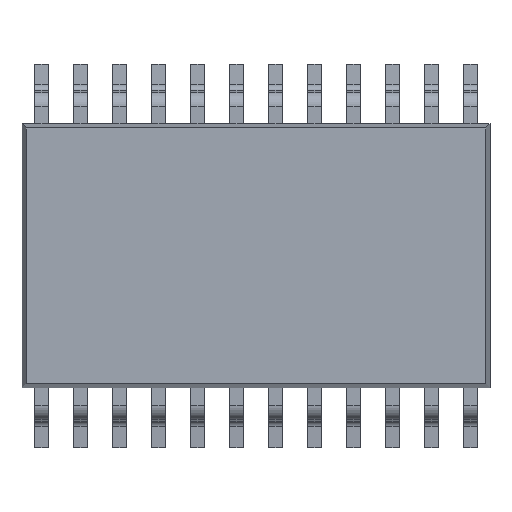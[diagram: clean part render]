
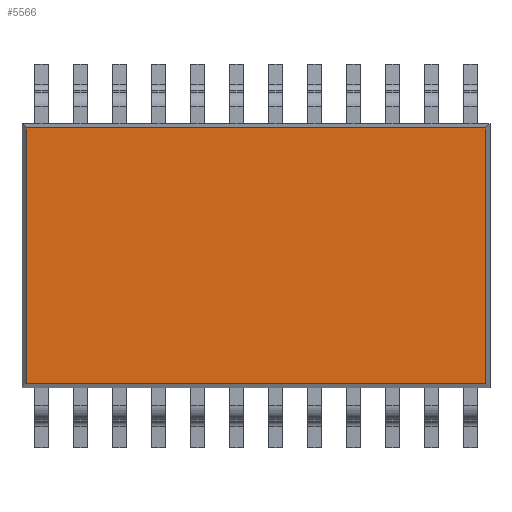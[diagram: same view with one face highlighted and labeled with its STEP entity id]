
A CAD part, top view. The second image highlights one B-rep face of the part: STEP entity #5566.
In plain terms, the highlighted planar face has unit normal (0, 0, 1).
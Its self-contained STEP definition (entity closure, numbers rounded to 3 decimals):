
#80 = DIRECTION ( 'NONE',  ( 0., 1., 0. ) ) ;
#121 = LINE ( 'NONE', #6752, #6411 ) ;
#325 = DIRECTION ( 'NONE',  ( 1., 0., 0. ) ) ;
#873 = DIRECTION ( 'NONE',  ( 0., 0., -1. ) ) ;
#892 = CARTESIAN_POINT ( 'NONE',  ( 3.832, 2.132, 0.387 ) ) ;
#1073 = ORIENTED_EDGE ( 'NONE', *, *, #7693, .T. ) ;
#1299 = VERTEX_POINT ( 'NONE', #3984 ) ;
#1426 = ORIENTED_EDGE ( 'NONE', *, *, #7400, .T. ) ;
#1429 = ORIENTED_EDGE ( 'NONE', *, *, #9684, .T. ) ;
#2398 = DIRECTION ( 'NONE',  ( 0., -1., 0. ) ) ;
#2445 = LINE ( 'NONE', #7421, #4788 ) ;
#2468 = DIRECTION ( 'NONE',  ( -1., 0., 0. ) ) ;
#2661 = CARTESIAN_POINT ( 'NONE',  ( 0., 0., 0.387 ) ) ;
#3385 = PLANE ( 'NONE',  #5066 ) ;
#3984 = CARTESIAN_POINT ( 'NONE',  ( -3.832, 2.132, 0.387 ) ) ;
#4788 = VECTOR ( 'NONE', #2398, 1000. ) ;
#4885 = CARTESIAN_POINT ( 'NONE',  ( 0., 2.132, 0.387 ) ) ;
#5066 = AXIS2_PLACEMENT_3D ( 'NONE', #2661, #873, #7652 ) ;
#5355 = EDGE_CURVE ( 'NONE', #1299, #6456, #2445, .T. ) ;
#5457 = VERTEX_POINT ( 'NONE', #892 ) ;
#5566 = ADVANCED_FACE ( 'NONE', ( #9491 ), #3385, .F. ) ;
#5935 = ORIENTED_EDGE ( 'NONE', *, *, #5355, .T. ) ;
#6411 = VECTOR ( 'NONE', #80, 1000. ) ;
#6456 = VERTEX_POINT ( 'NONE', #6739 ) ;
#6579 = VECTOR ( 'NONE', #2468, 1000. ) ;
#6739 = CARTESIAN_POINT ( 'NONE',  ( -3.832, -2.132, 0.387 ) ) ;
#6749 = CARTESIAN_POINT ( 'NONE',  ( 3.832, -2.132, 0.387 ) ) ;
#6752 = CARTESIAN_POINT ( 'NONE',  ( 3.832, 0., 0.387 ) ) ;
#6991 = CARTESIAN_POINT ( 'NONE',  ( 0., -2.132, 0.387 ) ) ;
#7400 = EDGE_CURVE ( 'NONE', #6456, #8366, #10358, .T. ) ;
#7421 = CARTESIAN_POINT ( 'NONE',  ( -3.832, 0., 0.387 ) ) ;
#7652 = DIRECTION ( 'NONE',  ( -1., 0., 0. ) ) ;
#7693 = EDGE_CURVE ( 'NONE', #5457, #1299, #8392, .T. ) ;
#8366 = VERTEX_POINT ( 'NONE', #6749 ) ;
#8392 = LINE ( 'NONE', #4885, #6579 ) ;
#9491 = FACE_OUTER_BOUND ( 'NONE', #9860, .T. ) ;
#9684 = EDGE_CURVE ( 'NONE', #8366, #5457, #121, .T. ) ;
#9860 = EDGE_LOOP ( 'NONE', ( #1429, #1073, #5935, #1426 ) ) ;
#10358 = LINE ( 'NONE', #6991, #10754 ) ;
#10754 = VECTOR ( 'NONE', #325, 1000. ) ;
